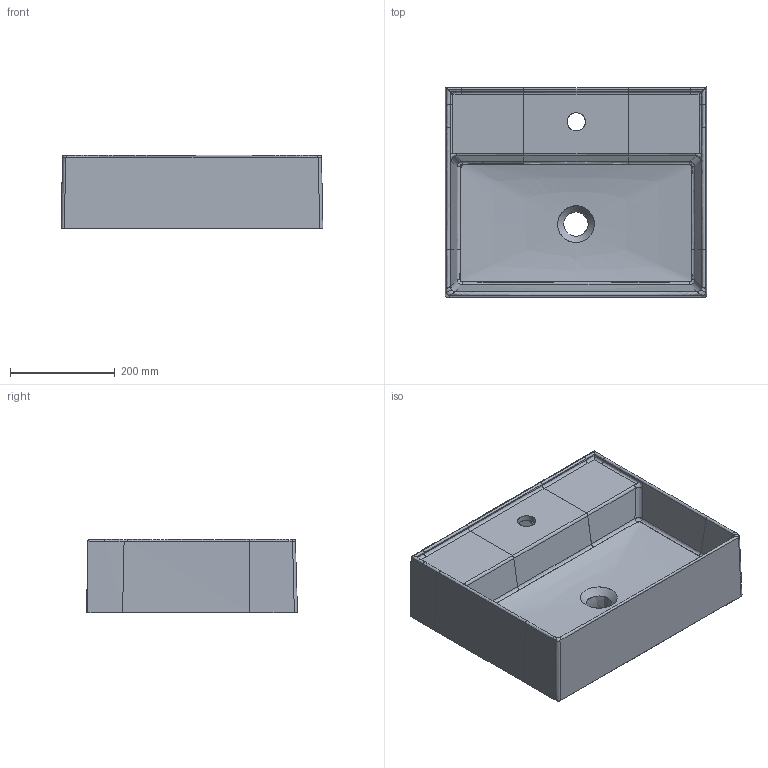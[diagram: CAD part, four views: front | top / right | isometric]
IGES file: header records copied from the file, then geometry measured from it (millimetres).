
Global section: file name: C:\Users\Massimiliano\Desktop\Teorema2.0\TEOREMA 2.0 art. 5111.igs; native system: Rhinoceros ( Mar 28 2013 ); preprocessor: Trout Lake IGES 012 Mar 28 2013; date: 180115.111329; units: millimetre
Bounding box: 500 x 402.78 x 140.64 mm (x, y, z)
Surface area: 887260.5 mm2 (no closed solid volume)
Topology: 0 solids, 0 shells, 250 faces, 3581 edges, 3569 vertices
Faces by surface type: bspline 250
